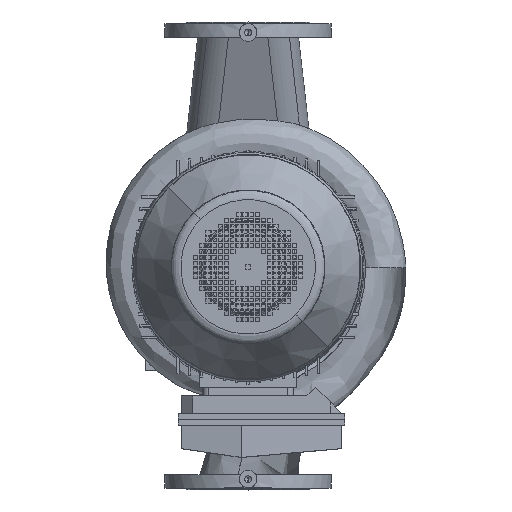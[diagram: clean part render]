
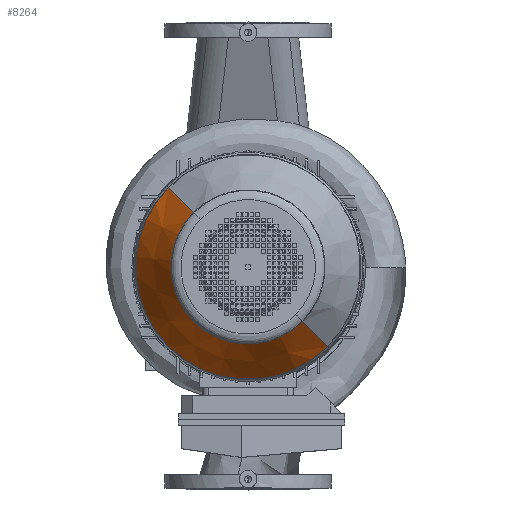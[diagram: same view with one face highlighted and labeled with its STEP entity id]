
A CAD part, top view. The second image highlights one B-rep face of the part: STEP entity #8264.
In plain terms, the highlighted conical face has half-angle 32.471 degrees and reference radius 126 mm.
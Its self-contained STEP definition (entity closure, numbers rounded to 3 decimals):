
#8264=ADVANCED_FACE('',(#19963),#19964,.T.);
#8288=EDGE_CURVE('',#20000,#19999,#20007,.T.);
#8292=EDGE_CURVE('',#19996,#19995,#20013,.T.);
#19963=FACE_OUTER_BOUND('',#35364,.T.);
#19964=CONICAL_SURFACE('',#35365,126.0,0.567);
#19995=VERTEX_POINT('',#35401);
#19996=VERTEX_POINT('',#35402);
#19999=VERTEX_POINT('',#35406);
#20000=VERTEX_POINT('',#35407);
#20007=CIRCLE('',#35416,131.894);
#20013=CIRCLE('',#35424,192.873);
#35364=EDGE_LOOP('',(#65851,#65852,#65853,#65854));
#35365=AXIS2_PLACEMENT_3D('',#65855,#65856,#65857);
#35401=CARTESIAN_POINT('',(192.873,0.,114.913));
#35402=CARTESIAN_POINT('',(-192.873,0.,114.913));
#35406=CARTESIAN_POINT('',(-131.894,0.,210.738));
#35407=CARTESIAN_POINT('',(131.894,0.,210.738));
#35416=AXIS2_PLACEMENT_3D('',#65911,#65912,#65913);
#35424=AXIS2_PLACEMENT_3D('',#65917,#65918,#65919);
#65851=ORIENTED_EDGE('',*,*,#74241,.T.);
#65852=ORIENTED_EDGE('',*,*,#8288,.F.);
#65853=ORIENTED_EDGE('',*,*,#74242,.T.);
#65854=ORIENTED_EDGE('',*,*,#8292,.F.);
#65855=CARTESIAN_POINT('',(0.0,0.0,220.0));
#65856=DIRECTION('',(-0.0,-0.0,-1.0));
#65857=DIRECTION('',(-1.0,0.,0.0));
#65911=CARTESIAN_POINT('',(0.0,0.0,210.738));
#65912=DIRECTION('',(0.0,-0.0,1.0));
#65913=DIRECTION('',(1.0,0.,0.0));
#65917=CARTESIAN_POINT('',(0.0,0.0,114.913));
#65918=DIRECTION('',(0.0,0.0,-1.0));
#65919=DIRECTION('',(1.0,0.,0.0));
#74241=EDGE_CURVE('',#19996,#19999,#79601,.T.);
#74242=EDGE_CURVE('',#20000,#19995,#79602,.T.);
#79601=LINE('',#87288,#87289);
#79602=LINE('',#87290,#87291);
#87288=CARTESIAN_POINT('',(-126.0,0.,220.0));
#87289=VECTOR('',#94102,1.0);
#87290=CARTESIAN_POINT('',(126.0,0.,220.0));
#87291=VECTOR('',#94103,1.0);
#94102=DIRECTION('',(0.537,0.,0.844));
#94103=DIRECTION('',(0.537,0.,-0.844));
